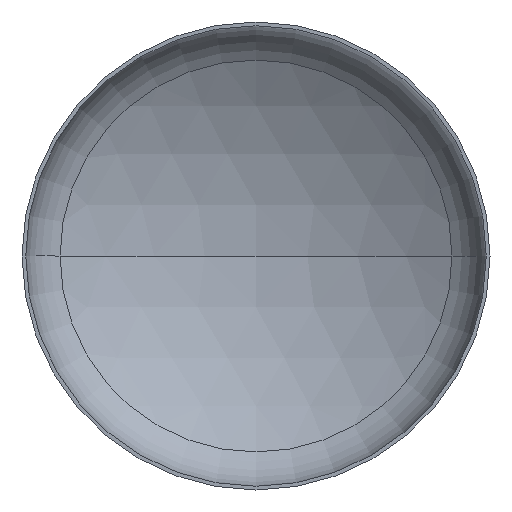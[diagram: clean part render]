
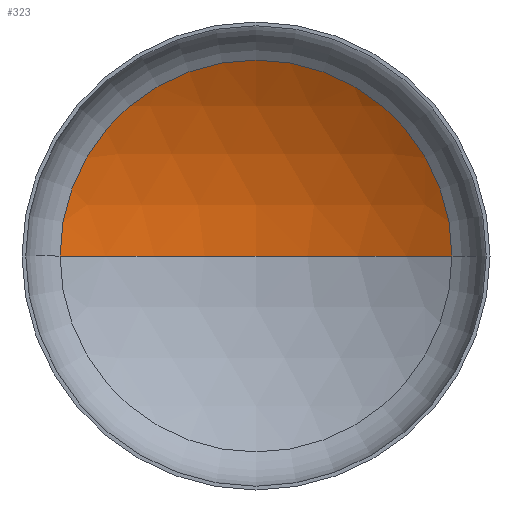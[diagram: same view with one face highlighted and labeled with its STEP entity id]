
A CAD part, front view. The second image highlights one B-rep face of the part: STEP entity #323.
In plain terms, the highlighted spherical face has radius 3200 mm.
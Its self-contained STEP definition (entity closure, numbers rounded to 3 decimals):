
#16 = AXIS2_PLACEMENT_3D ( 'NONE', #133, #107, #132 ) ;
#25 = ORIENTED_EDGE ( 'NONE', *, *, #99, .T. ) ;
#36 = CARTESIAN_POINT ( 'NONE',  ( 0., 1097.362, 0. ) ) ;
#42 = CARTESIAN_POINT ( 'NONE',  ( -1674.894, 624.032, 0. ) ) ;
#65 = AXIS2_PLACEMENT_3D ( 'NONE', #277, #153, #165 ) ;
#67 = AXIS2_PLACEMENT_3D ( 'NONE', #294, #293, #290 ) ;
#70 = AXIS2_PLACEMENT_3D ( 'NONE', #259, #361, #366 ) ;
#71 = CIRCLE ( 'NONE', #65, 3200. ) ;
#96 = EDGE_CURVE ( 'NONE', #327, #283, #374, .T. ) ;
#99 = EDGE_CURVE ( 'NONE', #212, #327, #250, .T. ) ;
#103 = EDGE_CURVE ( 'NONE', #212, #283, #71, .T. ) ;
#107 = DIRECTION ( 'NONE',  ( 0., 0., -1. ) ) ;
#126 = CARTESIAN_POINT ( 'NONE',  ( 1674.894, 624.032, 0. ) ) ;
#132 = DIRECTION ( 'NONE',  ( -1., 0., 0. ) ) ;
#133 = CARTESIAN_POINT ( 'NONE',  ( 0., -2102.638, 0. ) ) ;
#153 = DIRECTION ( 'NONE',  ( 0., 0., 1. ) ) ;
#165 = DIRECTION ( 'NONE',  ( 1., 0., 0. ) ) ;
#195 = FACE_OUTER_BOUND ( 'NONE', #279, .T. ) ;
#212 = VERTEX_POINT ( 'NONE', #36 ) ;
#220 = ORIENTED_EDGE ( 'NONE', *, *, #96, .T. ) ;
#229 = ORIENTED_EDGE ( 'NONE', *, *, #103, .F. ) ;
#250 = CIRCLE ( 'NONE', #67, 3200. ) ;
#259 = CARTESIAN_POINT ( 'NONE',  ( 0., 624.032, 0. ) ) ;
#268 = SPHERICAL_SURFACE ( 'NONE', #16, 3200. ) ;
#277 = CARTESIAN_POINT ( 'NONE',  ( 0., -2102.638, 0. ) ) ;
#279 = EDGE_LOOP ( 'NONE', ( #229, #25, #220 ) ) ;
#283 = VERTEX_POINT ( 'NONE', #42 ) ;
#290 = DIRECTION ( 'NONE',  ( -1., 0., 0. ) ) ;
#293 = DIRECTION ( 'NONE',  ( 0., 0., -1. ) ) ;
#294 = CARTESIAN_POINT ( 'NONE',  ( 0., -2102.638, 0. ) ) ;
#323 = ADVANCED_FACE ( 'NONE', ( #195 ), #268, .F. ) ;
#327 = VERTEX_POINT ( 'NONE', #126 ) ;
#361 = DIRECTION ( 'NONE',  ( 0., -1., 0. ) ) ;
#366 = DIRECTION ( 'NONE',  ( 1., 0., 0. ) ) ;
#374 = CIRCLE ( 'NONE', #70, 1674.894 ) ;
